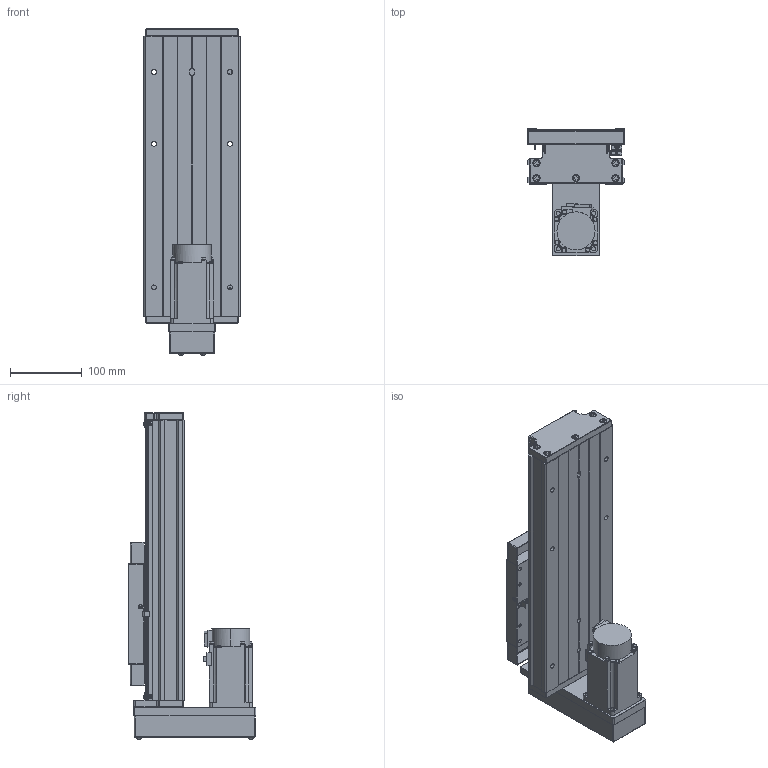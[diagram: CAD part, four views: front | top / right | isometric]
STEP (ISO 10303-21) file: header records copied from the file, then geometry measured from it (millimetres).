
FILE_DESCRIPTION (( 'STEP AP203' ), '1' );
FILE_NAME ('GTH14-150-BM-M40-C4.step', '2023-06-30T08:45:01', ( '微软用户' ), ( '微软中国' ), 'SwSTEP 2.0', 'SolidWorks 2020', '' );
FILE_SCHEMA (( 'CONFIG_CONTROL_DESIGN' ));
Length unit declared in the file: millimetre
Products named in the file (19): GTH14-002_GTH14-002; CTHA60-016; GBT 70.2-M4¡Á35_M4¡Á35; GTH14-004; GBT 70.1-M3℅5; GTH14-015-2_CTHA86-015-2; GTH14-005; GBT77-2000 M3×3; GTH14-033; GB1155-6X6; GTH14-031; GTH14-150-BM-M40-C4; GBT70.1 M5℅16; GBT 70.2-M3¡Á5_M3¡Á6; CTHA60-017; す晦芛蹟隊 M3℅5; GTH14-001_150; EE_SX911P_R; HG-KN43J-S100
Assembly tree (58 placements, depth 2):
  GTH14-150-BM-M40-C4
    GTH14-001_150
    GTH14-002_GTH14-002
    GTH14-004
    GTH14-005
    GB1155-6X6  x2
    GBT70.1 M5℅16  x10
    CTHA60-017  x3
    EE_SX911P_R  x3
    CTHA60-016  x2
    GBT 70.1-M3℅5  x6
    GBT77-2000 M3×3  x6
    GTH14-031
    GBT 70.2-M3¡Á5_M3¡Á6  x8
    す晦芛蹟隊 M3℅5  x6
    HG-KN43J-S100
    GBT 70.2-M4¡Á35_M4¡Á35  x4
    GTH14-015-2_CTHA86-015-2
    GTH14-033
Bounding box: 135 x 177.5 x 454.2 mm (x, y, z)
Volume: 2885095.6 mm3; surface area: 560762.6 mm2
Topology: 61 solids, 61 shells, 2433 faces, 5785 edges, 3562 vertices
Faces by surface type: plane 1303, cylinder 640, cone 314, torus 124, sphere 32, bspline 20
Entity records: 43542 total; most frequent: CARTESIAN_POINT 9757, DIRECTION 6369, ORIENTED_EDGE 6260, EDGE_CURVE 3130, AXIS2_PLACEMENT_3D 2166, VECTOR 2037, LINE 2037, VERTEX_POINT 1980
